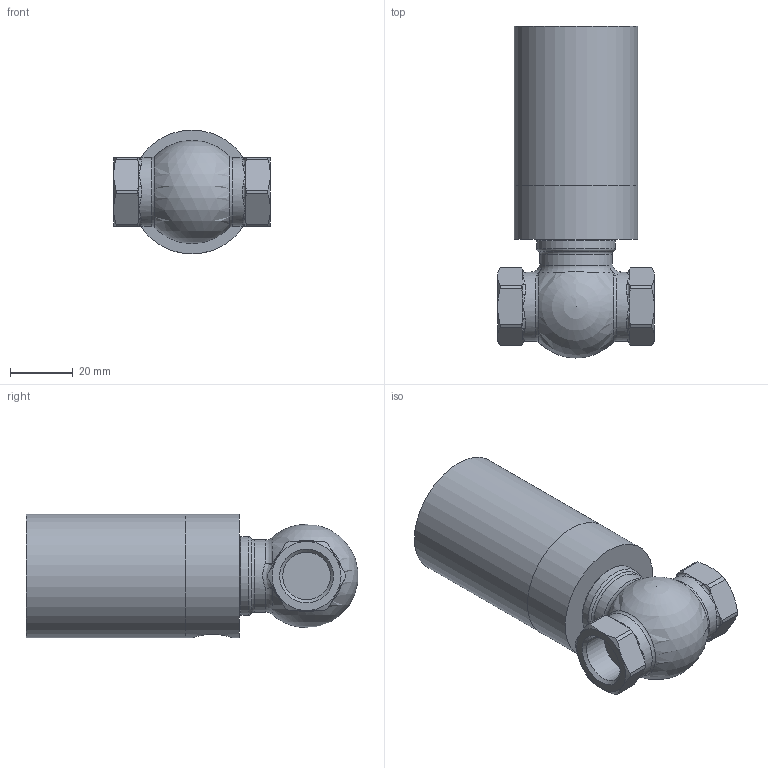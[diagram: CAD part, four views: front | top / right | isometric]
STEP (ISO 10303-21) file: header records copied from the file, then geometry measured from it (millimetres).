
FILE_DESCRIPTION(/* description */ (''),/* implementation_level */ '2;1');
FILE_NAME(/* name */ 'AFI38 v1.step',/* time_stamp */ '2025-07-16T12:12:15+02:00',/* author */ (''),/* organization */ (''),/* preprocessor_version */ 'ST-DEVELOPER v20.1',/* originating_system */ 'Autodesk Translation Framework v14.10.0.0',/* authorisation */ '');
FILE_SCHEMA (('AUTOMOTIVE_DESIGN { 1 0 10303 214 3 1 1 }'));
Length unit declared in the file: millimetre
Products named in the file (4): AFI38; CVACORGLOBG03; TA; tubo
Assembly tree (3 placements, depth 2):
  AFI38
    CVACORGLOBG03
    TA
    tubo
Bounding box: 50 x 105.88 x 39.5 mm (x, y, z)
Volume: 115705.5 mm3; surface area: 24492.9 mm2
Topology: 3 solids, 3 shells, 155 faces, 371 edges, 207 vertices
Faces by surface type: cylinder 38, plane 34, bspline 34, cone 30, torus 18, sphere 1
Full cylindrical faces by diameter (mm): 8.707 x2, 10.2 x3, 14.8 x3, 15.18 x2, 16.3 x1, 17.85 x1, 18 x1, 18.3 x1, 20 x1, 22 x2, 23 x2, 25 x1, 31.6 x1, 34.85 x1, 39.5 x2
Entity records: 6112 total; most frequent: CARTESIAN_POINT 2834, ORIENTED_EDGE 678, DIRECTION 658, EDGE_CURVE 339, AXIS2_PLACEMENT_3D 289, VERTEX_POINT 207, EDGE_LOOP 174, CIRCLE 161
